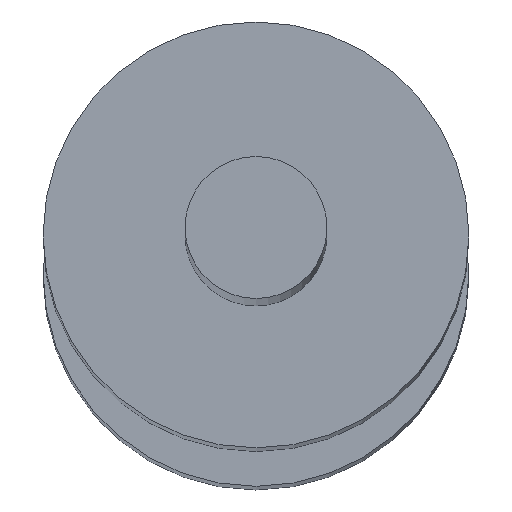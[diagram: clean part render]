
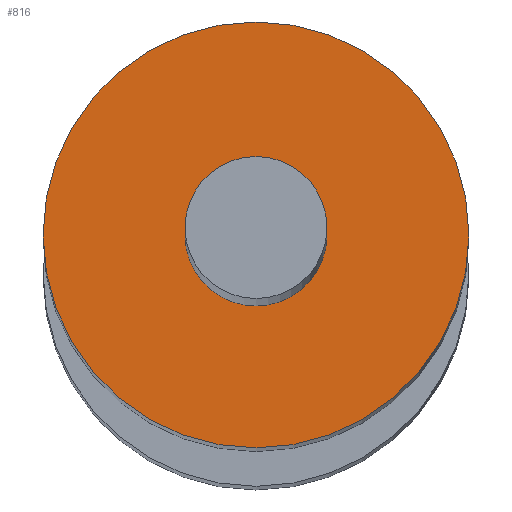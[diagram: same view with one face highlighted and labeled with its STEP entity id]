
A CAD part, top view. The second image highlights one B-rep face of the part: STEP entity #816.
In plain terms, the highlighted planar face has unit normal (0, 0, 1).
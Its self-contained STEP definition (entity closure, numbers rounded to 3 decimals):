
#9 = DIRECTION ( 'NONE',  ( 1., 0., 0. ) ) ;
#65 = CIRCLE ( 'NONE', #155, 1.5 ) ;
#87 = FACE_OUTER_BOUND ( 'NONE', #1085, .T. ) ;
#95 = DIRECTION ( 'NONE',  ( 1., 0., 0. ) ) ;
#101 = CARTESIAN_POINT ( 'NONE',  ( -0.5, 0., 15. ) ) ;
#117 = CARTESIAN_POINT ( 'NONE',  ( -1.5, 0., 15. ) ) ;
#120 = VERTEX_POINT ( 'NONE', #258 ) ;
#155 = AXIS2_PLACEMENT_3D ( 'NONE', #196, #637, #902 ) ;
#180 = DIRECTION ( 'NONE',  ( 0., 0., 1. ) ) ;
#196 = CARTESIAN_POINT ( 'NONE',  ( 0., 0., 15. ) ) ;
#215 = ORIENTED_EDGE ( 'NONE', *, *, #223, .T. ) ;
#223 = EDGE_CURVE ( 'NONE', #120, #1047, #65, .T. ) ;
#233 = EDGE_CURVE ( 'NONE', #399, #591, #909, .T. ) ;
#246 = CIRCLE ( 'NONE', #350, 1.5 ) ;
#258 = CARTESIAN_POINT ( 'NONE',  ( 1.5, 0., 15. ) ) ;
#259 = ORIENTED_EDGE ( 'NONE', *, *, #529, .F. ) ;
#350 = AXIS2_PLACEMENT_3D ( 'NONE', #696, #704, #9 ) ;
#399 = VERTEX_POINT ( 'NONE', #1060 ) ;
#426 = ORIENTED_EDGE ( 'NONE', *, *, #1032, .T. ) ;
#458 = DIRECTION ( 'NONE',  ( 1., 0., 0. ) ) ;
#470 = CARTESIAN_POINT ( 'NONE',  ( 0., 0., 15. ) ) ;
#508 = AXIS2_PLACEMENT_3D ( 'NONE', #783, #180, #458 ) ;
#529 = EDGE_CURVE ( 'NONE', #591, #399, #842, .T. ) ;
#566 = EDGE_LOOP ( 'NONE', ( #259, #640 ) ) ;
#579 = DIRECTION ( 'NONE',  ( 1., 0., 0. ) ) ;
#591 = VERTEX_POINT ( 'NONE', #101 ) ;
#637 = DIRECTION ( 'NONE',  ( 0., 0., 1. ) ) ;
#640 = ORIENTED_EDGE ( 'NONE', *, *, #233, .F. ) ;
#651 = DIRECTION ( 'NONE',  ( 0., 0., 1. ) ) ;
#696 = CARTESIAN_POINT ( 'NONE',  ( 0., 0., 15. ) ) ;
#704 = DIRECTION ( 'NONE',  ( 0., 0., 1. ) ) ;
#783 = CARTESIAN_POINT ( 'NONE',  ( 0., 0., 15. ) ) ;
#816 = ADVANCED_FACE ( 'NONE', ( #887, #87 ), #1069, .T. ) ;
#817 = AXIS2_PLACEMENT_3D ( 'NONE', #1019, #651, #579 ) ;
#842 = CIRCLE ( 'NONE', #1115, 0.5 ) ;
#887 = FACE_BOUND ( 'NONE', #566, .T. ) ;
#902 = DIRECTION ( 'NONE',  ( 1., 0., 0. ) ) ;
#909 = CIRCLE ( 'NONE', #817, 0.5 ) ;
#982 = DIRECTION ( 'NONE',  ( 0., 0., 1. ) ) ;
#1019 = CARTESIAN_POINT ( 'NONE',  ( 0., 0., 15. ) ) ;
#1032 = EDGE_CURVE ( 'NONE', #1047, #120, #246, .T. ) ;
#1047 = VERTEX_POINT ( 'NONE', #117 ) ;
#1060 = CARTESIAN_POINT ( 'NONE',  ( 0.5, 0., 15. ) ) ;
#1069 = PLANE ( 'NONE',  #508 ) ;
#1085 = EDGE_LOOP ( 'NONE', ( #426, #215 ) ) ;
#1115 = AXIS2_PLACEMENT_3D ( 'NONE', #470, #982, #95 ) ;
